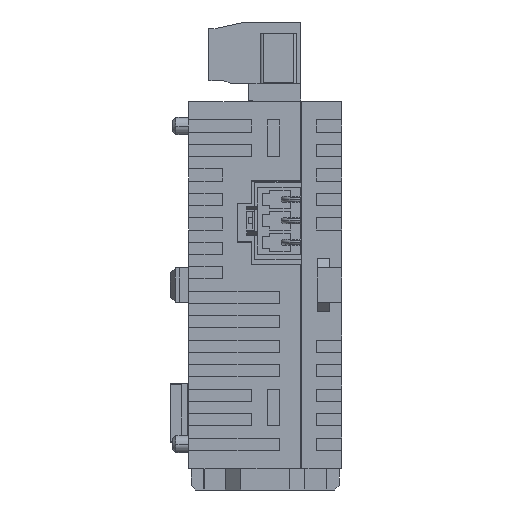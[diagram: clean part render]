
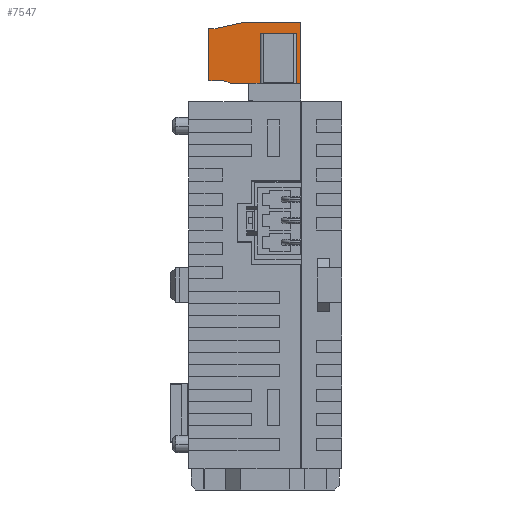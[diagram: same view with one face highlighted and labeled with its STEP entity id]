
A CAD part, front view. The second image highlights one B-rep face of the part: STEP entity #7547.
In plain terms, the highlighted planar face has unit normal (0, -1, 0).
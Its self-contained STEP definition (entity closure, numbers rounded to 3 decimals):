
#7275 = VERTEX_POINT ( 'NONE', #36562 ) ;
#7278 = EDGE_CURVE ( 'NONE', #7275, #7280, #36554, .T. ) ;
#7280 = VERTEX_POINT ( 'NONE', #36550 ) ;
#7342 = EDGE_CURVE ( 'NONE', #7363, #7343, #36754, .T. ) ;
#7343 = VERTEX_POINT ( 'NONE', #36747 ) ;
#7362 = EDGE_CURVE ( 'NONE', #7394, #7363, #36794, .T. ) ;
#7363 = VERTEX_POINT ( 'NONE', #36788 ) ;
#7392 = EDGE_CURVE ( 'NONE', #7280, #7394, #36964, .T. ) ;
#7394 = VERTEX_POINT ( 'NONE', #36958 ) ;
#7402 = VERTEX_POINT ( 'NONE', #37043 ) ;
#7432 = EDGE_CURVE ( 'NONE', #7343, #7433, #37108, .T. ) ;
#7433 = VERTEX_POINT ( 'NONE', #37104 ) ;
#7480 = EDGE_CURVE ( 'NONE', #7402, #7481, #37167, .T. ) ;
#7481 = VERTEX_POINT ( 'NONE', #37163 ) ;
#7538 = EDGE_CURVE ( 'NONE', #7433, #7402, #37232, .T. ) ;
#7547 = ADVANCED_FACE ( 'NONE', ( #37221 ), #37257, .F. ) ;
#7549 = EDGE_LOOP ( 'NONE', ( #7550, #7658, #7663, #7665, #7666, #7668, #7670, #7672, #7675, #7631, #7633, #7636, #7640, #7644, #7650 ) ) ;
#7550 = ORIENTED_EDGE ( 'NONE', *, *, #7551, .T. ) ;
#7551 = EDGE_CURVE ( 'NONE', #7652, #7655, #37252, .T. ) ;
#7631 = ORIENTED_EDGE ( 'NONE', *, *, #7278, .F. ) ;
#7633 = ORIENTED_EDGE ( 'NONE', *, *, #7634, .F. ) ;
#7634 = EDGE_CURVE ( 'NONE', #7635, #7275, #37335, .T. ) ;
#7635 = VERTEX_POINT ( 'NONE', #37392 ) ;
#7636 = ORIENTED_EDGE ( 'NONE', *, *, #7638, .T. ) ;
#7638 = EDGE_CURVE ( 'NONE', #7635, #7639, #37391, .T. ) ;
#7639 = VERTEX_POINT ( 'NONE', #37387 ) ;
#7640 = ORIENTED_EDGE ( 'NONE', *, *, #7641, .T. ) ;
#7641 = EDGE_CURVE ( 'NONE', #7639, #7643, #37386, .T. ) ;
#7643 = VERTEX_POINT ( 'NONE', #37382 ) ;
#7644 = ORIENTED_EDGE ( 'NONE', *, *, #7645, .T. ) ;
#7645 = EDGE_CURVE ( 'NONE', #7643, #7648, #37381, .T. ) ;
#7648 = VERTEX_POINT ( 'NONE', #37377 ) ;
#7650 = ORIENTED_EDGE ( 'NONE', *, *, #7757, .F. ) ;
#7652 = VERTEX_POINT ( 'NONE', #37376 ) ;
#7655 = VERTEX_POINT ( 'NONE', #37375 ) ;
#7658 = ORIENTED_EDGE ( 'NONE', *, *, #7660, .T. ) ;
#7660 = EDGE_CURVE ( 'NONE', #7655, #7682, #37373, .T. ) ;
#7663 = ORIENTED_EDGE ( 'NONE', *, *, #7680, .F. ) ;
#7665 = ORIENTED_EDGE ( 'NONE', *, *, #7480, .F. ) ;
#7666 = ORIENTED_EDGE ( 'NONE', *, *, #7538, .F. ) ;
#7668 = ORIENTED_EDGE ( 'NONE', *, *, #7432, .F. ) ;
#7670 = ORIENTED_EDGE ( 'NONE', *, *, #7342, .F. ) ;
#7672 = ORIENTED_EDGE ( 'NONE', *, *, #7362, .F. ) ;
#7675 = ORIENTED_EDGE ( 'NONE', *, *, #7392, .F. ) ;
#7680 = EDGE_CURVE ( 'NONE', #7481, #7682, #37405, .T. ) ;
#7682 = VERTEX_POINT ( 'NONE', #37401 ) ;
#7757 = EDGE_CURVE ( 'NONE', #7652, #7648, #37553, .T. ) ;
#36550 = CARTESIAN_POINT ( 'NONE',  ( -5.7, -21.25, 63. ) ) ;
#36551 = DIRECTION ( 'NONE',  ( -1., 0., 0. ) ) ;
#36552 = VECTOR ( 'NONE', #36551, 1000. ) ;
#36553 = CARTESIAN_POINT ( 'NONE',  ( 5.8, -21.25, 63. ) ) ;
#36554 = LINE ( 'NONE', #36553, #36552 ) ;
#36562 = CARTESIAN_POINT ( 'NONE',  ( -2.7, -21.25, 63. ) ) ;
#36747 = CARTESIAN_POINT ( 'NONE',  ( -9.2, -21.25, 71.912 ) ) ;
#36750 = DIRECTION ( 'NONE',  ( 0., 0., 1. ) ) ;
#36752 = VECTOR ( 'NONE', #36750, 1000. ) ;
#36753 = CARTESIAN_POINT ( 'NONE',  ( -9.2, -21.25, 63.412 ) ) ;
#36754 = LINE ( 'NONE', #36753, #36752 ) ;
#36788 = CARTESIAN_POINT ( 'NONE',  ( -9.2, -21.25, 63.412 ) ) ;
#36790 = DIRECTION ( 'NONE',  ( -1., 0., 0. ) ) ;
#36791 = VECTOR ( 'NONE', #36790, 1000. ) ;
#36792 = CARTESIAN_POINT ( 'NONE',  ( -9.2, -21.25, 63.412 ) ) ;
#36794 = LINE ( 'NONE', #36792, #36791 ) ;
#36958 = CARTESIAN_POINT ( 'NONE',  ( -6.816, -21.25, 63.412 ) ) ;
#36959 = DIRECTION ( 'NONE',  ( -0.938, 0., 0.347 ) ) ;
#36960 = VECTOR ( 'NONE', #36959, 1000. ) ;
#36962 = CARTESIAN_POINT ( 'NONE',  ( -6.816, -21.25, 63.412 ) ) ;
#36964 = LINE ( 'NONE', #36962, #36960 ) ;
#37043 = CARTESIAN_POINT ( 'NONE',  ( -3.2, -21.25, 73. ) ) ;
#37104 = CARTESIAN_POINT ( 'NONE',  ( -8.2, -21.25, 71.912 ) ) ;
#37105 = DIRECTION ( 'NONE',  ( 1., 0., 0. ) ) ;
#37106 = VECTOR ( 'NONE', #37105, 1000. ) ;
#37107 = CARTESIAN_POINT ( 'NONE',  ( -9.2, -21.25, 71.912 ) ) ;
#37108 = LINE ( 'NONE', #37107, #37106 ) ;
#37163 = CARTESIAN_POINT ( 'NONE',  ( 5.8, -21.25, 73. ) ) ;
#37164 = DIRECTION ( 'NONE',  ( 1., 0., 0. ) ) ;
#37165 = VECTOR ( 'NONE', #37164, 1000. ) ;
#37166 = CARTESIAN_POINT ( 'NONE',  ( -3.2, -21.25, 73. ) ) ;
#37167 = LINE ( 'NONE', #37166, #37165 ) ;
#37221 = FACE_OUTER_BOUND ( 'NONE', #7549, .T. ) ;
#37228 = DIRECTION ( 'NONE',  ( 0.977, 0., 0.213 ) ) ;
#37230 = VECTOR ( 'NONE', #37228, 1000. ) ;
#37231 = CARTESIAN_POINT ( 'NONE',  ( -8.2, -21.25, 71.912 ) ) ;
#37232 = LINE ( 'NONE', #37231, #37230 ) ;
#37249 = DIRECTION ( 'NONE',  ( 0., 0., 1. ) ) ;
#37250 = VECTOR ( 'NONE', #37249, 1000. ) ;
#37251 = CARTESIAN_POINT ( 'NONE',  ( 5.7, -21.25, 63. ) ) ;
#37252 = LINE ( 'NONE', #37251, #37250 ) ;
#37253 = DIRECTION ( 'NONE',  ( 0., 0., -1. ) ) ;
#37254 = DIRECTION ( 'NONE',  ( 0., 1., 0. ) ) ;
#37255 = CARTESIAN_POINT ( 'NONE',  ( -9.2, -21.25, 63. ) ) ;
#37256 = AXIS2_PLACEMENT_3D ( 'NONE', #37255, #37254, #37253 ) ;
#37257 = PLANE ( 'NONE',  #37256 ) ;
#37335 = LINE ( 'NONE', #37395, #37394 ) ;
#37370 = DIRECTION ( 'NONE',  ( 1., 0., 0. ) ) ;
#37371 = VECTOR ( 'NONE', #37370, 1000. ) ;
#37372 = CARTESIAN_POINT ( 'NONE',  ( 5.7, -21.25, 63.1 ) ) ;
#37373 = LINE ( 'NONE', #37372, #37371 ) ;
#37375 = CARTESIAN_POINT ( 'NONE',  ( 5.7, -21.25, 63.1 ) ) ;
#37376 = CARTESIAN_POINT ( 'NONE',  ( 5.7, -21.25, 63. ) ) ;
#37377 = CARTESIAN_POINT ( 'NONE',  ( 5.2, -21.25, 63. ) ) ;
#37378 = DIRECTION ( 'NONE',  ( 0., 0., -1. ) ) ;
#37379 = VECTOR ( 'NONE', #37378, 1000. ) ;
#37380 = CARTESIAN_POINT ( 'NONE',  ( 5.2, -21.25, 71.2 ) ) ;
#37381 = LINE ( 'NONE', #37380, #37379 ) ;
#37382 = CARTESIAN_POINT ( 'NONE',  ( 5.2, -21.25, 71.2 ) ) ;
#37383 = DIRECTION ( 'NONE',  ( 1., 0., 0. ) ) ;
#37384 = VECTOR ( 'NONE', #37383, 1000. ) ;
#37385 = CARTESIAN_POINT ( 'NONE',  ( -0.8, -21.25, 71.2 ) ) ;
#37386 = LINE ( 'NONE', #37385, #37384 ) ;
#37387 = CARTESIAN_POINT ( 'NONE',  ( -0.8, -21.25, 71.2 ) ) ;
#37388 = DIRECTION ( 'NONE',  ( 0., 0., 1. ) ) ;
#37389 = VECTOR ( 'NONE', #37388, 1000. ) ;
#37390 = CARTESIAN_POINT ( 'NONE',  ( -0.8, -21.25, 71.2 ) ) ;
#37391 = LINE ( 'NONE', #37390, #37389 ) ;
#37392 = CARTESIAN_POINT ( 'NONE',  ( -0.8, -21.25, 63. ) ) ;
#37393 = DIRECTION ( 'NONE',  ( -1., 0., 0. ) ) ;
#37394 = VECTOR ( 'NONE', #37393, 1000. ) ;
#37395 = CARTESIAN_POINT ( 'NONE',  ( 5.8, -21.25, 63. ) ) ;
#37401 = CARTESIAN_POINT ( 'NONE',  ( 5.8, -21.25, 63.1 ) ) ;
#37402 = DIRECTION ( 'NONE',  ( 0., 0., -1. ) ) ;
#37403 = VECTOR ( 'NONE', #37402, 1000. ) ;
#37404 = CARTESIAN_POINT ( 'NONE',  ( 5.8, -21.25, 73. ) ) ;
#37405 = LINE ( 'NONE', #37404, #37403 ) ;
#37550 = DIRECTION ( 'NONE',  ( -1., 0., 0. ) ) ;
#37551 = VECTOR ( 'NONE', #37550, 1000. ) ;
#37552 = CARTESIAN_POINT ( 'NONE',  ( 5.8, -21.25, 63. ) ) ;
#37553 = LINE ( 'NONE', #37552, #37551 ) ;
